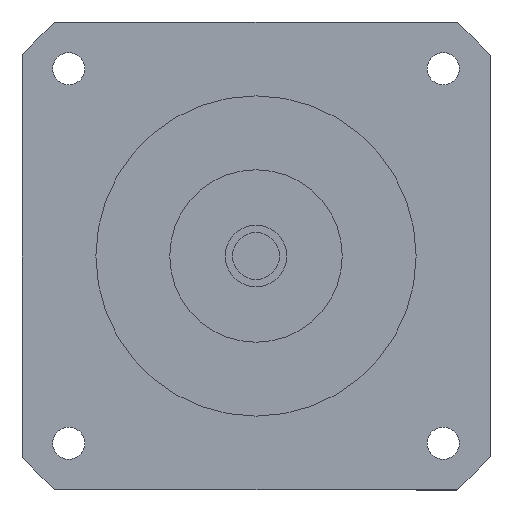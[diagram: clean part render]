
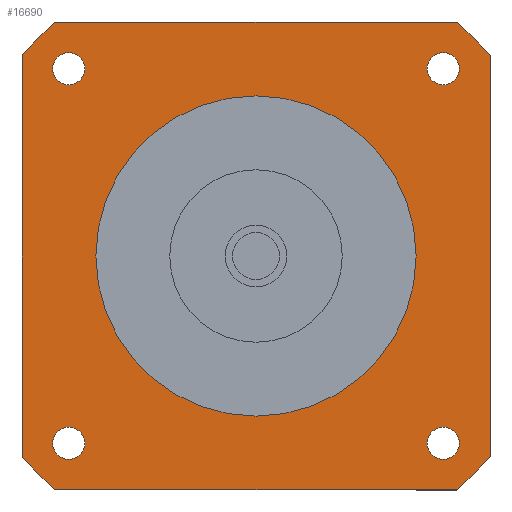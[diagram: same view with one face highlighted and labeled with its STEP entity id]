
A CAD part, left-side view. The second image highlights one B-rep face of the part: STEP entity #16690.
In plain terms, the highlighted planar face has unit normal (-1, 0, 0) as drawn and (0, 0, -1) by its records, which use the part's own axes.
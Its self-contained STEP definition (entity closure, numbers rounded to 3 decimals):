
#12990=CARTESIAN_POINT('',(95.,-81.24,-59.7));
#13000=VERTEX_POINT('',#12990);
#13050=CARTESIAN_POINT('',(0.,0.,
-59.7));
#13060=DIRECTION('',(0.,0.,-1.));
#13070=DIRECTION('',(1.,0.,0.));
#13080=AXIS2_PLACEMENT_3D('',#13050,#13060,#13070);
#13090=CIRCLE('',#13080,125.);
#13100=CARTESIAN_POINT('',(81.24,-95.,-59.7));
#13110=VERTEX_POINT('',#13100);
#13120=EDGE_CURVE('',#13000,#13110,#13090,.T.);
#13410=CARTESIAN_POINT('',(-81.24,-95.,-59.7));
#13420=VERTEX_POINT('',#13410);
#13470=CARTESIAN_POINT('',(0.,0.,
-59.7));
#13480=DIRECTION('',(0.,0.,-1.));
#13490=DIRECTION('',(1.,0.,0.));
#13500=AXIS2_PLACEMENT_3D('',#13470,#13480,#13490);
#13510=CIRCLE('',#13500,125.);
#13520=CARTESIAN_POINT('',(-95.,-81.24,-59.7));
#13530=VERTEX_POINT('',#13520);
#13540=EDGE_CURVE('',#13420,#13530,#13510,.T.);
#15220=CARTESIAN_POINT('',(69.514,-76.014,-59.7));
#15230=VERTEX_POINT('',#15220);
#15260=CARTESIAN_POINT('',(76.014,-76.014,-59.7));
#15270=DIRECTION('',(0.,0.,-1.));
#15280=DIRECTION('',(1.,0.,0.));
#15290=AXIS2_PLACEMENT_3D('',#15260,#15270,#15280);
#15300=CIRCLE('',#15290,6.5);
#15310=CARTESIAN_POINT('',(82.514,-76.014,-59.7));
#15320=VERTEX_POINT('',#15310);
#15330=EDGE_CURVE('',#15320,#15230,#15300,.T.);
#15450=CARTESIAN_POINT('',(95.,95.,-59.7));
#15460=DIRECTION('',(0.,0.,-1.));
#15470=DIRECTION('',(1.,0.,0.));
#15480=AXIS2_PLACEMENT_3D('',#15450,#15460,#15470);
#15490=PLANE('',#15480);
#15500=CARTESIAN_POINT('',(-76.014,76.014,-59.7));
#15510=DIRECTION('',(0.,0.,-1.));
#15520=DIRECTION('',(-1.,0.,0.));
#15530=AXIS2_PLACEMENT_3D('',#15500,#15510,#15520);
#15540=CIRCLE('',#15530,6.5);
#15550=CARTESIAN_POINT('',(-82.514,76.014,-59.7));
#15560=VERTEX_POINT('',#15550);
#15570=CARTESIAN_POINT('',(-69.514,76.014,-59.7));
#15580=VERTEX_POINT('',#15570);
#15590=EDGE_CURVE('',#15560,#15580,#15540,.T.);
#15600=ORIENTED_EDGE('',*,*,#15590,.F.);
#15610=EDGE_CURVE('',#15580,#15560,#15540,.T.);
#15620=ORIENTED_EDGE('',*,*,#15610,.F.);
#15630=EDGE_LOOP('',(#15620,#15600));
#15640=FACE_BOUND('',#15630,.T.);
#15650=CARTESIAN_POINT('',(76.014,76.014,-59.7));
#15660=DIRECTION('',(0.,0.,-1.));
#15670=DIRECTION('',(0.,1.,0.));
#15680=AXIS2_PLACEMENT_3D('',#15650,#15660,#15670);
#15690=CIRCLE('',#15680,6.5);
#15700=CARTESIAN_POINT('',(76.014,82.514,-59.7));
#15710=VERTEX_POINT('',#15700);
#15720=CARTESIAN_POINT('',(76.014,69.514,-59.7));
#15730=VERTEX_POINT('',#15720);
#15740=EDGE_CURVE('',#15710,#15730,#15690,.T.);
#15750=ORIENTED_EDGE('',*,*,#15740,.F.);
#15760=EDGE_CURVE('',#15730,#15710,#15690,.T.);
#15770=ORIENTED_EDGE('',*,*,#15760,.F.);
#15780=EDGE_LOOP('',(#15770,#15750));
#15790=FACE_BOUND('',#15780,.T.);
#15800=CARTESIAN_POINT('',(0.,0.,
-59.7));
#15810=DIRECTION('',(0.,0.,1.));
#15820=DIRECTION('',(0.,1.,0.));
#15830=AXIS2_PLACEMENT_3D('',#15800,#15810,#15820);
#15840=CIRCLE('',#15830,65.);
#15850=CARTESIAN_POINT('',(-65.,0.,-59.7));
#15860=VERTEX_POINT('',#15850);
#15870=CARTESIAN_POINT('',(65.,0.,-59.7));
#15880=VERTEX_POINT('',#15870);
#15890=EDGE_CURVE('',#15860,#15880,#15840,.T.);
#15900=ORIENTED_EDGE('',*,*,#15890,.T.);
#15910=CARTESIAN_POINT('',(0.,65.,-59.7));
#15920=VERTEX_POINT('',#15910);
#15930=EDGE_CURVE('',#15920,#15860,#15840,.T.);
#15940=ORIENTED_EDGE('',*,*,#15930,.T.);
#15950=EDGE_CURVE('',#15880,#15920,#15840,.T.);
#15960=ORIENTED_EDGE('',*,*,#15950,.T.);
#15970=EDGE_LOOP('',(#15960,#15940,#15900));
#15980=FACE_BOUND('',#15970,.T.);
#15990=ORIENTED_EDGE('',*,*,#15330,.F.);
#16000=EDGE_CURVE('',#15230,#15320,#15300,.T.);
#16010=ORIENTED_EDGE('',*,*,#16000,.F.);
#16020=EDGE_LOOP('',(#16010,#15990));
#16030=FACE_BOUND('',#16020,.T.);
#16040=CARTESIAN_POINT('',(-76.014,-76.014,-59.7));
#16050=DIRECTION('',(0.,0.,-1.));
#16060=DIRECTION('',(0.,-1.,0.));
#16070=AXIS2_PLACEMENT_3D('',#16040,#16050,#16060);
#16080=CIRCLE('',#16070,6.5);
#16090=CARTESIAN_POINT('',(-76.014,-82.514,-59.7));
#16100=VERTEX_POINT('',#16090);
#16110=CARTESIAN_POINT('',(-76.014,-69.514,-59.7));
#16120=VERTEX_POINT('',#16110);
#16130=EDGE_CURVE('',#16100,#16120,#16080,.T.);
#16140=ORIENTED_EDGE('',*,*,#16130,.F.);
#16150=EDGE_CURVE('',#16120,#16100,#16080,.T.);
#16160=ORIENTED_EDGE('',*,*,#16150,.F.);
#16170=EDGE_LOOP('',(#16160,#16140));
#16180=FACE_BOUND('',#16170,.T.);
#16190=CARTESIAN_POINT('',(-95.,95.,-59.7));
#16200=DIRECTION('',(1.,0.,0.));
#16210=VECTOR('',#16200,1000.);
#16220=LINE('',#16190,#16210);
#16230=CARTESIAN_POINT('',(-81.24,95.,-59.7));
#16240=VERTEX_POINT('',#16230);
#16250=CARTESIAN_POINT('',(81.24,95.,-59.7));
#16260=VERTEX_POINT('',#16250);
#16270=EDGE_CURVE('',#16240,#16260,#16220,.T.);
#16280=ORIENTED_EDGE('',*,*,#16270,.T.);
#16290=CARTESIAN_POINT('',(0.,0.,
-59.7));
#16300=DIRECTION('',(0.,0.,-1.));
#16310=DIRECTION('',(1.,0.,0.));
#16320=AXIS2_PLACEMENT_3D('',#16290,#16300,#16310);
#16330=CIRCLE('',#16320,125.);
#16340=CARTESIAN_POINT('',(-95.,81.24,-59.7));
#16350=VERTEX_POINT('',#16340);
#16360=EDGE_CURVE('',#16350,#16240,#16330,.T.);
#16370=ORIENTED_EDGE('',*,*,#16360,.T.);
#16380=CARTESIAN_POINT('',(-95.,-95.,-59.7));
#16390=DIRECTION('',(0.,1.,0.));
#16400=VECTOR('',#16390,1000.);
#16410=LINE('',#16380,#16400);
#16420=EDGE_CURVE('',#13530,#16350,#16410,.T.);
#16430=ORIENTED_EDGE('',*,*,#16420,.T.);
#16440=ORIENTED_EDGE('',*,*,#13540,.T.);
#16450=CARTESIAN_POINT('',(95.,-95.,-59.7));
#16460=DIRECTION('',(-1.,0.,0.));
#16470=VECTOR('',#16460,1000.);
#16480=LINE('',#16450,#16470);
#16490=EDGE_CURVE('',#13110,#13420,#16480,.T.);
#16500=ORIENTED_EDGE('',*,*,#16490,.T.);
#16510=ORIENTED_EDGE('',*,*,#13120,.T.);
#16520=CARTESIAN_POINT('',(95.,95.,-59.7));
#16530=DIRECTION('',(0.,-1.,0.));
#16540=VECTOR('',#16530,1000.);
#16550=LINE('',#16520,#16540);
#16560=CARTESIAN_POINT('',(95.,81.24,-59.7));
#16570=VERTEX_POINT('',#16560);
#16580=EDGE_CURVE('',#16570,#13000,#16550,.T.);
#16590=ORIENTED_EDGE('',*,*,#16580,.T.);
#16600=CARTESIAN_POINT('',(0.,0.,
-59.7));
#16610=DIRECTION('',(0.,0.,-1.));
#16620=DIRECTION('',(1.,0.,0.));
#16630=AXIS2_PLACEMENT_3D('',#16600,#16610,#16620);
#16640=CIRCLE('',#16630,125.);
#16650=EDGE_CURVE('',#16260,#16570,#16640,.T.);
#16660=ORIENTED_EDGE('',*,*,#16650,.T.);
#16670=EDGE_LOOP('',(#16660,#16590,#16510,#16500,#16440,#16430,#16370,
#16280));
#16680=FACE_OUTER_BOUND('',#16670,.T.);
#16690=ADVANCED_FACE('',(#15640,#15790,#15980,#16030,#16180,#16680),
#15490,.T.);
